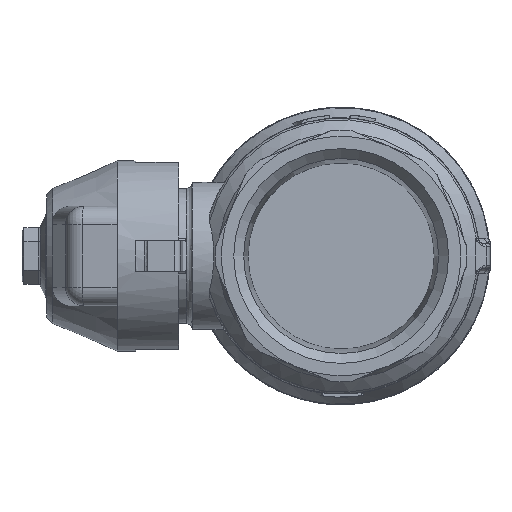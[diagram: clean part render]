
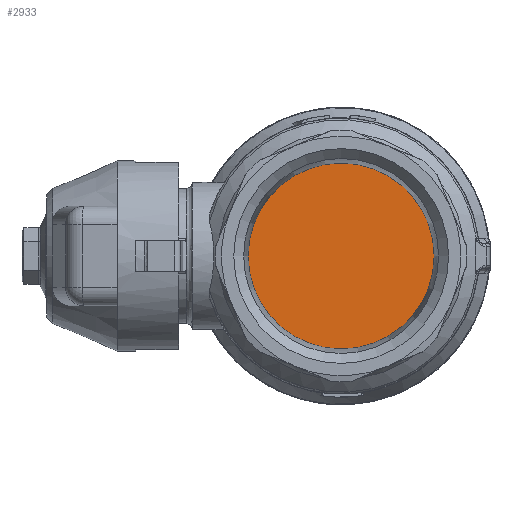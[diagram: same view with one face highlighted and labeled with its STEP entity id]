
A CAD part, left-side view. The second image highlights one B-rep face of the part: STEP entity #2933.
In plain terms, the highlighted planar face has unit normal (-1, 0, 0).
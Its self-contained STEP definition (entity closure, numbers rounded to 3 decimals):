
#2917=CARTESIAN_POINT('',(64.623,91.764,88.078));
#2918=DIRECTION('',(-1.0,0.0,0.0));
#2919=DIRECTION('',(0.0,0.0,1.0));
#2920=AXIS2_PLACEMENT_3D('',#2917,#2918,#2919);
#2921=PLANE('',#2920);
#2922=CARTESIAN_POINT('',(64.623,84.189,88.078));
#2923=VERTEX_POINT('',#2922);
#2924=CARTESIAN_POINT('',(64.623,99.339,88.078));
#2925=DIRECTION('',(-1.0,0.0,0.0));
#2926=DIRECTION('',(0.0,-1.0,0.0));
#2927=AXIS2_PLACEMENT_3D('',#2924,#2925,#2926);
#2928=CIRCLE('',#2927,15.15);
#2929=EDGE_CURVE('',#2923,#2923,#2928,.T.);
#2930=ORIENTED_EDGE('',*,*,#2929,.T.);
#2931=EDGE_LOOP('',(#2930));
#2932=FACE_OUTER_BOUND('',#2931,.T.);
#2933=ADVANCED_FACE('',(#2932),#2921,.T.);
